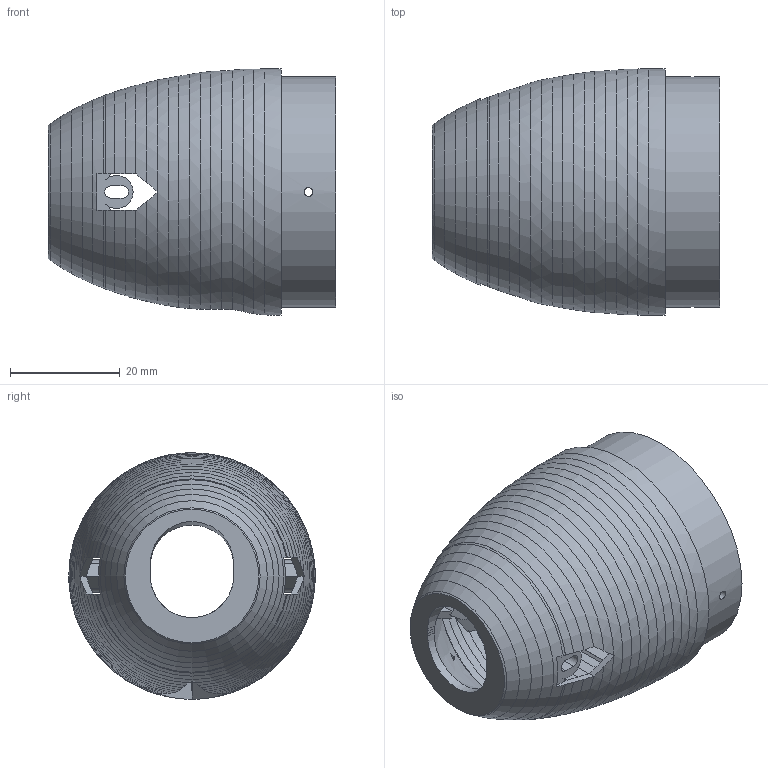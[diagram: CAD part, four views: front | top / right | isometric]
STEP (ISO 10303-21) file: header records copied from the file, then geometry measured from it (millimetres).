
FILE_DESCRIPTION(('Open CASCADE Model'),'2;1');
FILE_NAME('Open CASCADE Shape Model','2026-10-04T08:08:20',('Author'),( 'Open CASCADE'),'Open CASCADE STEP processor 7.9','Open CASCADE 7.9' ,'Unknown');
FILE_SCHEMA(('AUTOMOTIVE_DESIGN { 1 0 10303 214 1 1 1 1 }'));
Length unit declared in the file: millimetre
Products named in the file (1): Open CASCADE STEP translator 7.9 6
Bounding box: 52.5 x 45 x 45 mm (x, y, z)
Volume: 13491.9 mm3; surface area: 14916.8 mm2
Topology: 1 solids, 1 shells, 328 faces, 951 edges, 624 vertices
Faces by surface type: plane 153, cone 111, bspline 33, cylinder 31
Full cylindrical faces by diameter (mm): 1.6 x2, 42 x1, 45 x1
Entity records: 27372 total; most frequent: CARTESIAN_POINT 9977, DIRECTION 2920, ORIENTED_EDGE 1902, PCURVE 1902, DEFINITIONAL_REPRESENTATION 1902, LINE 1129, VECTOR 1129, EDGE_CURVE 951
